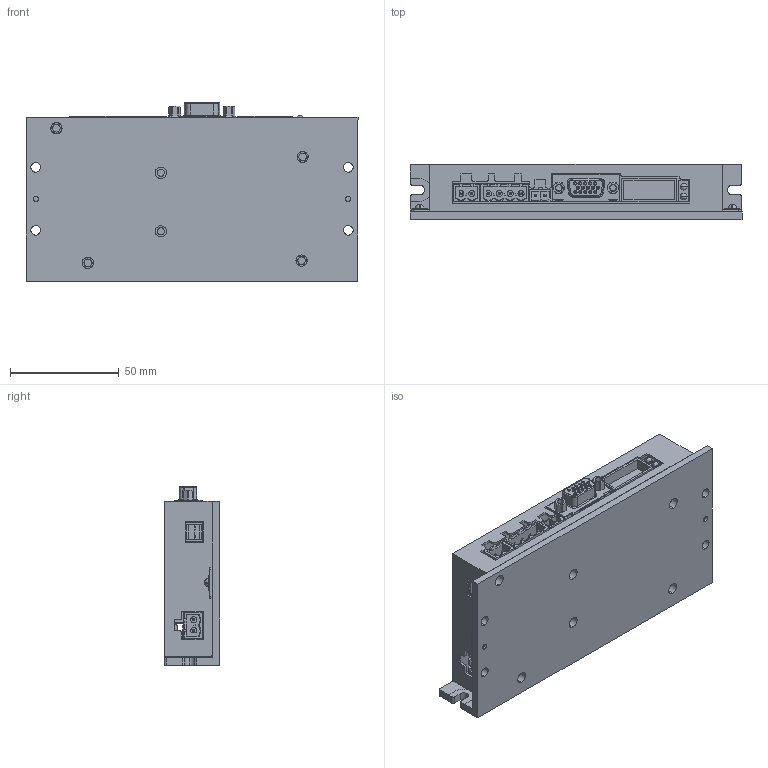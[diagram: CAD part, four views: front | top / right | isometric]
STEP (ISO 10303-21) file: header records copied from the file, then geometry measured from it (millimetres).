
FILE_DESCRIPTION (( 'STEP AP214' ), '1' );
FILE_NAME ('ASDB4845-V2.0淕儂俋夤.STEP', '2024-03-29T09:19:07', ( 'Microsoft' ), ( 'Microsoft' ), 'SwSTEP 2.0', 'SolidWorks 2017', '' );
FILE_SCHEMA (( 'AUTOMOTIVE_DESIGN' ));
Length unit declared in the file: millimetre
Products named in the file (1): ASDB4845-V2.0淕儂俋夤
Bounding box: 153 x 25.5 x 82.25 mm (x, y, z)
Surface area: 98407.6 mm2 (no closed solid volume)
Topology: 0 solids, 71 shells, 3052 faces, 7884 edges, 5111 vertices
Faces by surface type: plane 2023, cylinder 898, cone 72, bspline 51, sphere 8
Entity records: 128881 total; most frequent: CARTESIAN_POINT 19564, ORIENTED_EDGE 15748, DIRECTION 14837, EDGE_CURVE 7876, LINE 5781, VECTOR 5781, VERTEX_POINT 5111, AXIS2_PLACEMENT_3D 4528
